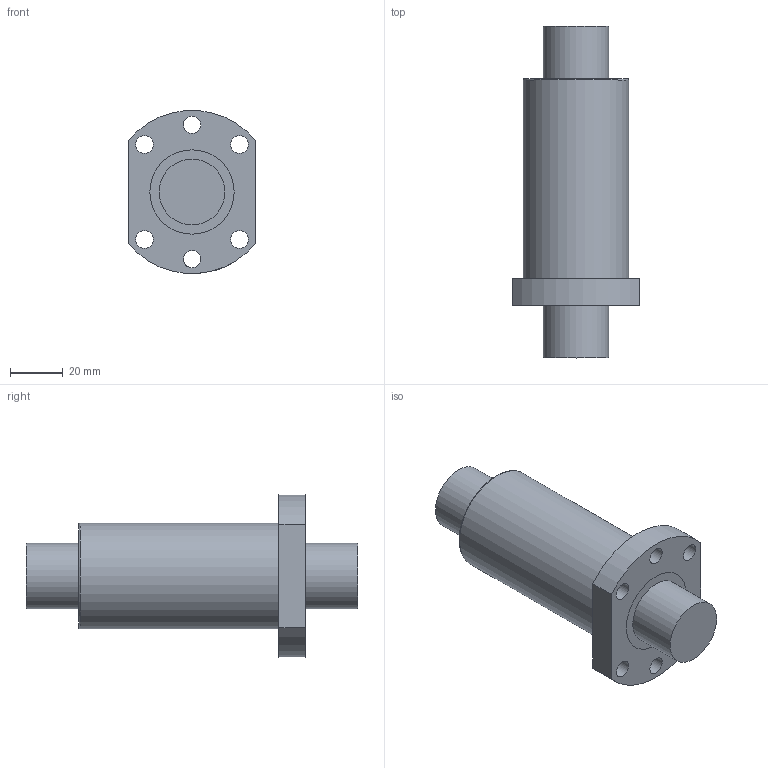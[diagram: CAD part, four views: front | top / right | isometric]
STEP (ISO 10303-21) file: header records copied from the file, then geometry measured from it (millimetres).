
FILE_DESCRIPTION(/* description */ (''),/* implementation_level */ '2;1');
FILE_NAME(/* name */ 'OFU02505-4.stp',/* time_stamp */ '2017-03-13T10:52:23+08:00',/* author */ (''),/* organization */ (''),/* preprocessor_version */ 'ST-DEVELOPER v11',/* originating_system */ 'SIEMENS UGS NX 6.0',/* authorisation */ '');
FILE_SCHEMA (('CONFIG_CONTROL_DESIGN'));
Length unit declared in the file: millimetre
Products named in the file (1): OFU02505-4
Bounding box: 48 x 126 x 61.8 mm (x, y, z)
Volume: 128274.3 mm3; surface area: 38210.7 mm2
Topology: 4 solids, 4 shells, 34 faces, 77 edges, 53 vertices
Faces by surface type: cylinder 19, plane 14, torus 1
Full cylindrical faces by diameter (mm): 4 x1, 5 x1, 6.6 x6, 25 x4, 32 x4, 40 x1
Entity records: 1035 total; most frequent: CARTESIAN_POINT 243, DIRECTION 154, ORIENTED_EDGE 100, EDGE_LOOP 74, AXIS2_PLACEMENT_3D 72, FACE_BOUND 68, EDGE_CURVE 50, VERTEX_POINT 44
